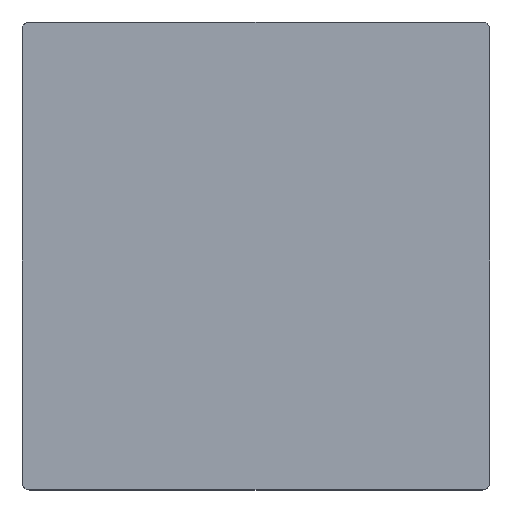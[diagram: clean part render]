
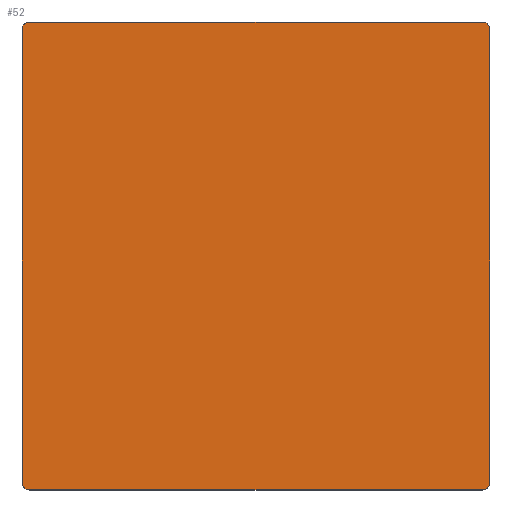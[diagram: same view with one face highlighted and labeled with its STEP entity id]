
A CAD part, top view. The second image highlights one B-rep face of the part: STEP entity #52.
In plain terms, the highlighted planar face has unit normal (0, 0, 1).
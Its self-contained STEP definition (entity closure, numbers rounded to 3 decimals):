
#52=ADVANCED_FACE($,(#90),#478,.T.);
#90=FACE_OUTER_BOUND($,#128,.T.);
#128=EDGE_LOOP($,(#268,#269,#270,#271,#272,#273,#274,#275));
#268=ORIENTED_EDGE($,*,*,#379,.F.);
#269=ORIENTED_EDGE($,*,*,#370,.F.);
#270=ORIENTED_EDGE($,*,*,#378,.F.);
#271=ORIENTED_EDGE($,*,*,#369,.F.);
#272=ORIENTED_EDGE($,*,*,#377,.F.);
#273=ORIENTED_EDGE($,*,*,#368,.F.);
#274=ORIENTED_EDGE($,*,*,#376,.F.);
#275=ORIENTED_EDGE($,*,*,#371,.F.);
#368=EDGE_CURVE($,#437,#436,#530,.T.);
#369=EDGE_CURVE($,#439,#438,#531,.T.);
#370=EDGE_CURVE($,#441,#440,#532,.T.);
#371=EDGE_CURVE($,#443,#442,#533,.T.);
#376=EDGE_CURVE($,#442,#437,#554,.T.);
#377=EDGE_CURVE($,#436,#439,#555,.T.);
#378=EDGE_CURVE($,#438,#441,#556,.T.);
#379=EDGE_CURVE($,#440,#443,#557,.T.);
#436=VERTEX_POINT($,#1314);
#437=VERTEX_POINT($,#1315);
#438=VERTEX_POINT($,#1316);
#439=VERTEX_POINT($,#1317);
#440=VERTEX_POINT($,#1318);
#441=VERTEX_POINT($,#1319);
#442=VERTEX_POINT($,#1320);
#443=VERTEX_POINT($,#1321);
#478=PLANE($,#676);
#530=B_SPLINE_CURVE_WITH_KNOTS($,1,(#1188,#1189),.UNSPECIFIED.,.F.,.F.,(2,
2),(20.,1180.),.UNSPECIFIED.);
#531=B_SPLINE_CURVE_WITH_KNOTS($,1,(#1190,#1191),.UNSPECIFIED.,.F.,.F.,(2,
2),(20.,1180.),.UNSPECIFIED.);
#532=B_SPLINE_CURVE_WITH_KNOTS($,1,(#1192,#1193),.UNSPECIFIED.,.F.,.F.,(2,
2),(20.,1180.),.UNSPECIFIED.);
#533=B_SPLINE_CURVE_WITH_KNOTS($,1,(#1194,#1195),.UNSPECIFIED.,.F.,.F.,(2,
2),(20.,1180.),.UNSPECIFIED.);
#554=(
BOUNDED_CURVE()
B_SPLINE_CURVE(2,(#1208,#1209,#1210),.UNSPECIFIED.,.F.,.F.)
B_SPLINE_CURVE_WITH_KNOTS((3,3),(-1.,0.),.UNSPECIFIED.)
CURVE()
GEOMETRIC_REPRESENTATION_ITEM()
RATIONAL_B_SPLINE_CURVE((1.,0.707,1.))
REPRESENTATION_ITEM($)
);
#555=(
BOUNDED_CURVE()
B_SPLINE_CURVE(2,(#1211,#1212,#1213),.UNSPECIFIED.,.F.,.F.)
B_SPLINE_CURVE_WITH_KNOTS((3,3),(0.,1.),.UNSPECIFIED.)
CURVE()
GEOMETRIC_REPRESENTATION_ITEM()
RATIONAL_B_SPLINE_CURVE((1.,0.707,1.))
REPRESENTATION_ITEM($)
);
#556=(
BOUNDED_CURVE()
B_SPLINE_CURVE(2,(#1214,#1215,#1216),.UNSPECIFIED.,.F.,.F.)
B_SPLINE_CURVE_WITH_KNOTS((3,3),(0.,1.),.UNSPECIFIED.)
CURVE()
GEOMETRIC_REPRESENTATION_ITEM()
RATIONAL_B_SPLINE_CURVE((1.,0.707,1.))
REPRESENTATION_ITEM($)
);
#557=(
BOUNDED_CURVE()
B_SPLINE_CURVE(2,(#1217,#1218,#1219),.UNSPECIFIED.,.F.,.F.)
B_SPLINE_CURVE_WITH_KNOTS((3,3),(0.,1.),.UNSPECIFIED.)
CURVE()
GEOMETRIC_REPRESENTATION_ITEM()
RATIONAL_B_SPLINE_CURVE((1.,0.707,1.))
REPRESENTATION_ITEM($)
);
#676=AXIS2_PLACEMENT_3D($,#1254,#705,$);
#705=DIRECTION($,(0.,0.,1.));
#1188=CARTESIAN_POINT($,(0.,20.,312.));
#1189=CARTESIAN_POINT($,(0.,1180.,312.));
#1190=CARTESIAN_POINT($,(20.,1200.,312.));
#1191=CARTESIAN_POINT($,(1180.,1200.,312.));
#1192=CARTESIAN_POINT($,(1200.,1180.,312.));
#1193=CARTESIAN_POINT($,(1200.,20.,312.));
#1194=CARTESIAN_POINT($,(1180.,0.,312.));
#1195=CARTESIAN_POINT($,(20.,0.,312.));
#1208=CARTESIAN_POINT($,(20.,0.,312.));
#1209=CARTESIAN_POINT($,(0.,0.,312.));
#1210=CARTESIAN_POINT($,(0.,20.,312.));
#1211=CARTESIAN_POINT($,(0.,1180.,312.));
#1212=CARTESIAN_POINT($,(0.,1200.,312.));
#1213=CARTESIAN_POINT($,(20.,1200.,312.));
#1214=CARTESIAN_POINT($,(1180.,1200.,312.));
#1215=CARTESIAN_POINT($,(1200.,1200.,312.));
#1216=CARTESIAN_POINT($,(1200.,1180.,312.));
#1217=CARTESIAN_POINT($,(1200.,20.,312.));
#1218=CARTESIAN_POINT($,(1200.,0.,312.));
#1219=CARTESIAN_POINT($,(1180.,0.,312.));
#1254=CARTESIAN_POINT($,(0.,0.,312.));
#1314=CARTESIAN_POINT($,(0.,1180.,312.));
#1315=CARTESIAN_POINT($,(0.,20.,312.));
#1316=CARTESIAN_POINT($,(1180.,1200.,312.));
#1317=CARTESIAN_POINT($,(20.,1200.,312.));
#1318=CARTESIAN_POINT($,(1200.,20.,312.));
#1319=CARTESIAN_POINT($,(1200.,1180.,312.));
#1320=CARTESIAN_POINT($,(20.,0.,312.));
#1321=CARTESIAN_POINT($,(1180.,0.,312.));
